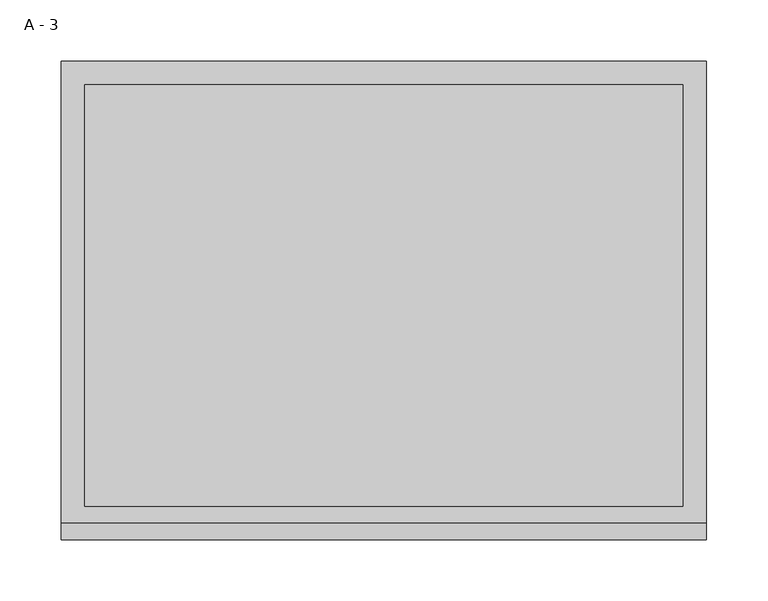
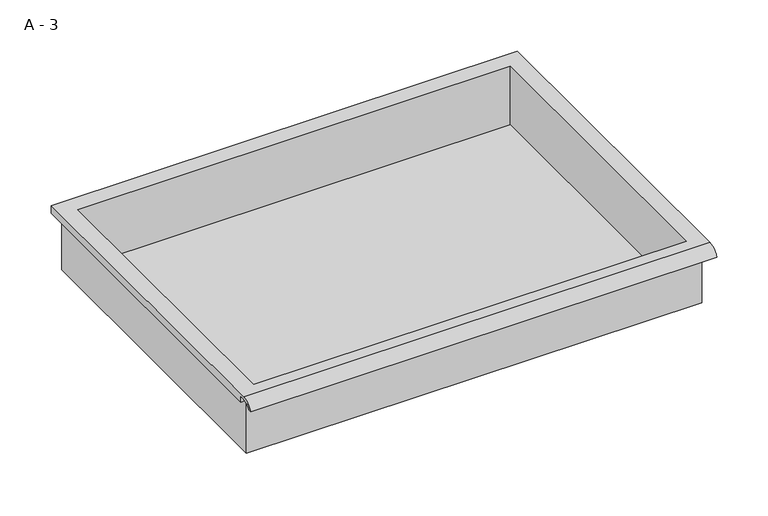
"""IFC4 building model written with IfcOpenShell, lengths in millimetres: furniture geometry, HermanMiller_CoStruc_CO207_Drawer : A - 3."""

import ifcopenshell
import ifcopenshell.guid

model = None  # the IFC model being written
_history = None  # IfcOwnerHistory: only IFC2X3 demands one
_inside = {}  # id of a spatial element -> (the spatial element, [elements in it])
_under = {}  # id of a project, library or spatial element -> (it, [spatial elements below it])
_declared = {}  # id of a project -> (the project, [libraries it declares])
_typed = {}  # id of a type object -> (the type object, [elements of that type])
_made_of = {}  # id of a material, layer set ... -> (it, [elements and type objects made of it])


def new_model(schema):
    """Start an empty IFC model of exactly this schema.

    Asked for "IFC4X3", IfcOpenShell would pick the latest addendum, in which some entities
    have other attributes; the version numbers below select the first issue.
    IFC2X3 requires an IfcOwnerHistory on every rooted entity: one is made here for all.
    """
    global model, _history
    if schema == "IFC4X3":
        model = ifcopenshell.file(schema_version=(4, 3, 0, 0))
    else:
        model = ifcopenshell.file(schema=schema)
    _inside.clear()
    _under.clear()
    _declared.clear()
    _typed.clear()
    _made_of.clear()
    _history = None
    if model.schema == "IFC2X3":
        org = make("IfcOrganization", Name="unknown")
        user = make(
            "IfcPersonAndOrganization",
            ThePerson=make("IfcPerson", FamilyName="unknown"),
            TheOrganization=org,
        )
        app = make(
            "IfcApplication",
            ApplicationDeveloper=org,
            Version="unknown",
            ApplicationFullName="unknown",
            ApplicationIdentifier="unknown",
        )
        _history = make(
            "IfcOwnerHistory",
            OwningUser=user,
            OwningApplication=app,
            ChangeAction="ADDED",
            CreationDate=0,
        )
    return model


def make(cls, **values):
    """One entity of the class cls with the attributes given. An attribute that is None is left unset."""
    return model.create_entity(
        cls, **{name: value for name, value in values.items() if value is not None}
    )


def rooted(cls, **values):
    """An entity with a GlobalId (a new one), such as an element, a storey or a relation."""
    return make(cls, GlobalId=ifcopenshell.guid.new(), OwnerHistory=_history, **values)


def si_unit(unit_type, name, prefix=None):
    """IfcSIUnit, for example si_unit("LENGTHUNIT", "METRE", prefix="MILLI")."""
    return make("IfcSIUnit", UnitType=unit_type, Prefix=prefix, Name=name)


def assignment(units):
    """IfcUnitAssignment: the units of a project."""
    return None if units is None else make("IfcUnitAssignment", Units=units)


def point(xyz):
    """IfcCartesianPoint."""
    return None if xyz is None else make("IfcCartesianPoint", Coordinates=xyz)


def direction(xyz):
    """IfcDirection."""
    return None if xyz is None else make("IfcDirection", DirectionRatios=xyz)


def frame(location, z_axis=None, x_axis=None):
    """IfcAxis2Placement3D, a coordinate frame: its origin and axes. An axis left out is left unset."""
    return make(
        "IfcAxis2Placement3D",
        Location=point(location),
        Axis=direction(z_axis),
        RefDirection=direction(x_axis),
    )


def origin():
    """The frame at (0, 0, 0) with its axes left unset."""
    return frame((0.0, 0.0, 0.0))


def place(relative_to, where):
    """IfcLocalPlacement: puts the frame where relative to a parent placement (None: the world)."""
    return make(
        "IfcLocalPlacement", PlacementRelTo=relative_to, RelativePlacement=where
    )


def context(
    kind, dimensions, precision=None, world=None, true_north=None, identifier=None
):
    """IfcGeometricRepresentationContext, for example the 3D "Model" context."""
    return make(
        "IfcGeometricRepresentationContext",
        ContextIdentifier=identifier,
        ContextType=kind,
        CoordinateSpaceDimension=dimensions,
        Precision=precision,
        WorldCoordinateSystem=world,
        TrueNorth=true_north,
    )


def project(units=None, contexts=None):
    """IfcProject with its units and contexts."""
    return rooted(
        "IfcProject",
        Name="project",
        RepresentationContexts=contexts,
        UnitsInContext=assignment(units),
    )


def spatial(cls, under=None, at=None, **own):
    """A site, building, storey or space (cls), placed at a placement, below another one or the project."""
    s = rooted(cls, ObjectPlacement=at, **own)
    if under is not None:
        _under.setdefault(under.id(), (under, []))[1].append(s)
    return s


def polyline(points):
    """IfcPolyline through the points."""
    return make("IfcPolyline", Points=[point(p) for p in points])


def circle_curve(where, radius):
    """IfcCircle in the frame where."""
    return make("IfcCircle", Position=where, Radius=radius)


def shape(context_of_items, identifier, shape_type, items):
    """IfcShapeRepresentation: the items that make up one representation, for example the "Body"."""
    return make(
        "IfcShapeRepresentation",
        ContextOfItems=context_of_items,
        RepresentationIdentifier=identifier,
        RepresentationType=shape_type,
        Items=items,
    )


def source(mapping_origin, context_of_items, identifier, shape_type, items):
    """IfcRepresentationMap: a shape defined once, which mapped items show again and again."""
    return make(
        "IfcRepresentationMap",
        MappingOrigin=mapping_origin,
        MappedRepresentation=shape(context_of_items, identifier, shape_type, items),
    )


def transform(
    local_origin,
    x_axis=None,
    y_axis=None,
    z_axis=None,
    scale=None,
    scale2=None,
    scale3=None,
    uniform=True,
):
    """IfcCartesianTransformationOperator3D, or its non-uniform kind. x_axis, y_axis, z_axis: its Axis1, 2, 3."""
    if uniform:
        return make(
            "IfcCartesianTransformationOperator3D",
            Axis1=direction(x_axis),
            Axis2=direction(y_axis),
            LocalOrigin=point(local_origin),
            Scale=scale,
            Axis3=direction(z_axis),
        )
    return make(
        "IfcCartesianTransformationOperator3DnonUniform",
        Axis1=direction(x_axis),
        Axis2=direction(y_axis),
        LocalOrigin=point(local_origin),
        Scale=scale,
        Axis3=direction(z_axis),
        Scale2=scale2,
        Scale3=scale3,
    )


def mapped(mapping_source, mapping_target):
    """IfcMappedItem: shows the shape of a source again, moved by a transform."""
    return make(
        "IfcMappedItem", MappingSource=mapping_source, MappingTarget=mapping_target
    )


def made_of(thing, what):
    """Note that an element or type object is made of a material, layer set ...; save() writes the relation."""
    if what is not None:
        _made_of.setdefault(what.id(), (what, []))[1].append(thing)
    return thing


def element(
    cls,
    number,
    at=None,
    inside=None,
    cuts=None,
    type_object=None,
    material=None,
    context=None,
    identifier="Body",
    shape_type=None,
    held_by="IfcProductDefinitionShape",
    body=None,
    shapes=None,
    **own,
):
    """One element of the class cls, such as IfcWall. Its Tag is "e" and its number.

    at: its placement. inside: the storey or other place that contains it. cuts: it is an
    opening in that element (IfcRelVoidsElement). A single representation is given by context,
    identifier, shape_type and body (its items); several are given by shapes. held_by: the class
    of the entity that holds the representations. save() writes the other relations.
    """
    e = rooted(cls, Tag="e%d" % number, ObjectPlacement=at, **own)
    if body is not None:
        shapes = [shape(context, identifier, shape_type, body)]
    if shapes is not None:
        e.Representation = make(held_by, Representations=shapes)
    if inside is not None:
        _inside.setdefault(inside.id(), (inside, []))[1].append(e)
    if cuts is not None:
        rooted(
            "IfcRelVoidsElement", RelatingBuildingElement=cuts, RelatedOpeningElement=e
        )
    if type_object is not None:
        _typed.setdefault(type_object.id(), (type_object, []))[1].append(e)
    return made_of(e, material)


def aggregate(whole, parts):
    """IfcRelAggregates: a whole, such as a stair, and the parts it consists of."""
    return rooted("IfcRelAggregates", RelatingObject=whole, RelatedObjects=parts)


def save(model, path):
    """Write the relations noted so far, then the file.

    IfcRelAggregates (storeys below a building ...), IfcRelContainedInSpatialStructure (elements
    in a storey), IfcRelDefinesByType, IfcRelAssociatesMaterial and IfcRelDeclares: one each for
    every whole, place, type object, material and project.
    """
    for whole, parts in _under.values():
        aggregate(whole, parts)
    for where, things in _inside.values():
        rooted(
            "IfcRelContainedInSpatialStructure",
            RelatedElements=things,
            RelatingStructure=where,
        )
    for kind, things in _typed.values():
        rooted("IfcRelDefinesByType", RelatedObjects=things, RelatingType=kind)
    for what, things in _made_of.values():
        rooted("IfcRelAssociatesMaterial", RelatedObjects=things, RelatingMaterial=what)
    for by, libraries in _declared.values():
        rooted("IfcRelDeclares", RelatingContext=by, RelatedDefinitions=libraries)
    model.write(path)


def plane_surface(at):
    """IfcPlane: the flat surface through the origin of the frame at, square to its z axis."""
    return make("IfcPlane", Position=at)


def cylinder_surface(at, radius):
    """IfcCylindricalSurface: all points at the distance radius from the z axis of the frame at."""
    return make("IfcCylindricalSurface", Position=at, Radius=radius)


def revolved_surface(curve, axis_point, axis_direction):
    """IfcSurfaceOfRevolution: the curve turned about the line through axis_point along axis_direction."""
    return make(
        "IfcSurfaceOfRevolution",
        SweptCurve=make("IfcArbitraryOpenProfileDef", ProfileType="CURVE", Curve=curve),
        AxisPosition=make("IfcAxis1Placement", Location=point(axis_point), Axis=direction(axis_direction)),
    )


def advanced_brep(points, edges, surfaces, faces):
    """IfcAdvancedBrep: a solid bounded by faces that lie on surfaces and meet in shared edges.

    An edge is (start, end): straight between two places in points (the first is 0);
    or (start, end, curve); or (start, end, curve, False) where it runs against its curve.
    A face is (place in surfaces, loops), or (place, loops, False) where it looks against
    its surface's normal. A loop lists edges by number (the first is 1), with a minus sign
    where the edge is run from its end to its start. The first loop is the outer one.
    """
    corners = [point(p) for p in points]
    vertices = [make("IfcVertexPoint", VertexGeometry=c) for c in corners]
    made = []
    for start, end, *more in edges:
        made.append(
            make(
                "IfcEdgeCurve",
                EdgeStart=vertices[start],
                EdgeEnd=vertices[end],
                EdgeGeometry=more[0] if more else make("IfcPolyline", Points=[corners[start], corners[end]]),
                SameSense=more[1] if len(more) > 1 else True,
            )
        )
    hull = []
    for where, loops, *sense in faces:
        bounds = []
        for j, loop in enumerate(loops):
            ring = [make("IfcOrientedEdge", EdgeElement=made[abs(k) - 1], Orientation=k > 0) for k in loop]
            bounds.append(
                make(
                    "IfcFaceOuterBound" if j == 0 else "IfcFaceBound",
                    Bound=make("IfcEdgeLoop", EdgeList=ring),
                    Orientation=True,
                )
            )
        hull.append(make("IfcAdvancedFace", Bounds=bounds, FaceSurface=surfaces[where], SameSense=sense[0] if sense else True))
    return make("IfcAdvancedBrep", Outer=make("IfcClosedShell", CfsFaces=hull))


def a_3_189406c7(model_context):
    return source(origin(), model_context, "Body", "AdvancedBrep", [
        advanced_brep(
        [(-257.1076517, -176.2125, 738.2002), (257.2423483, -176.2125, 738.2002), (257.2423483, -176.2125, 801.7002), (263.5923483, -176.2125, 801.7002), (263.5923483, -176.2125, 808.0073341), (-263.4576517, -176.2125, 808.0073341), (-263.4576517, -176.2125, 801.7002), (-257.1076517, -176.2125, 801.7002), (257.2423483, 185.7375, 738.2002), (-257.1076517, 185.7375, 738.2002), (-257.1076517, 185.7375, 801.7002), (257.2423483, 185.7375, 801.7002), (263.5923483, -181.6070544, 811.2252), (263.5923483, 195.2625, 811.2252), (-263.4576517, 195.2625, 811.2252), (-263.4576517, -181.6070544, 811.2252), (244.5423483, -168.275, 811.2252), (-244.4076517, -168.275, 811.2252), (-244.4076517, 176.2125, 811.2252), (244.5423483, 176.2125, 811.2252), (263.5923483, -195.2625, 801.7002), (263.5923483, -191.8280601, 801.7002), (263.5923483, -180.4714815, 808.0073341), (263.5923483, 195.2625, 801.7002), (-263.4576517, 195.2625, 801.7002), (-263.4576517, -180.4714815, 808.0073341), (-263.4576517, -191.8280601, 801.7002), (-263.4576517, -195.2625, 801.7002), (-244.4076517, -168.275, 741.2263719), (244.5423483, -168.275, 741.2263719), (244.5423483, 176.2125, 741.2263719), (-244.4076517, 176.2125, 741.2263719)],
        [
            (0, 1),
            (1, 2),
            (2, 3),
            (3, 4),
            (4, 5),
            (5, 6),
            (6, 7),
            (7, 0),
            (8, 9),
            (9, 10),
            (10, 11),
            (11, 8),
            (0, 9),
            (8, 1),
            (11, 2),
            (12, 13),
            (13, 14),
            (14, 15),
            (15, 12),
            (16, 17),
            (17, 18),
            (18, 19),
            (19, 16),
            (7, 10),
            (12, 20, circle_curve(frame((263.5923483, -181.6070544, 796.6741859), z_axis=(1.0, 0.0, 0.0), x_axis=(0.0, 1.0, 0.0)), 14.5510141)),
            (20, 21),
            (21, 22, circle_curve(frame((263.5923483, -181.6070544, 796.6741859), z_axis=(-1.0, 0.0, 0.0), x_axis=(0.0, 1.0, 0.0)), 11.3898979)),
            (22, 4),
            (3, 23),
            (23, 13),
            (14, 24),
            (24, 6),
            (5, 25),
            (25, 26, circle_curve(frame((-263.4576517, -181.6070544, 796.6741859), z_axis=(1.0, 0.0, 0.0), x_axis=(0.0, 1.0, 0.0)), 11.3898979)),
            (26, 27),
            (27, 15, circle_curve(frame((-263.4576517, -181.6070544, 796.6741859), z_axis=(-1.0, 0.0, 0.0), x_axis=(0.0, 1.0, 0.0)), 14.5510141)),
            (27, 20),
            (26, 21),
            (25, 22),
            (24, 23),
            (28, 29),
            (29, 30),
            (30, 31),
            (31, 28),
            (28, 17),
            (16, 29),
            (19, 30),
            (18, 31),
        ],
        [
            plane_surface(frame((257.2423483, -176.2125, 738.2002), z_axis=(0.0, -1.0, 0.0), x_axis=(1.0, 0.0, 0.0))),
            plane_surface(frame((257.2423483, 185.7375, 738.2002), z_axis=(0.0, 1.0, 0.0), x_axis=(-1.0, 0.0, 0.0))),
            plane_surface(frame((-257.1076517, -176.2125, 738.2002), z_axis=(0.0, 0.0, -1.0), x_axis=(0.0, 1.0, 0.0))),
            plane_surface(frame((257.2423483, -176.2125, 738.2002), z_axis=(1.0, 0.0, 0.0), x_axis=(0.0, 1.0, 0.0))),
            plane_surface(frame((257.2423483, -176.2125, 811.2252), z_axis=(0.0, 0.0, 1.0), x_axis=(0.0, 1.0, 0.0))),
            plane_surface(frame((-257.1076517, -176.2125, 811.2252), z_axis=(-1.0, 0.0, 0.0), x_axis=(0.0, 1.0, 0.0))),
            plane_surface(frame((263.5923483, 195.2625, 811.2252), z_axis=(1.0, 0.0, 0.0), x_axis=(0.0, -1.0, 0.0))),
            plane_surface(frame((-263.4576517, 195.2625, 811.2252), z_axis=(-1.0, 0.0, 0.0), x_axis=(0.0, 1.0, 0.0))),
            cylinder_surface(frame((-263.4576517, -181.6070544, 796.6741859), z_axis=(1.0, 0.0, 0.0), x_axis=(0.0, 1.0, 0.0)), 14.5510141),
            plane_surface(frame((263.5923483, -195.2625, 801.7002), z_axis=(0.0, -7.172997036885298e-12, -1.0), x_axis=(-1.0, 0.0, 0.0))),
            revolved_surface(polyline([(-263.4576517, -170.21715650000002, 796.6741859), (263.59234829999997, -170.21715650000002, 796.6741859)]), (-263.4576517, -181.6070544, 796.6741859), (-1.0, 0.0, 0.0)),
            plane_surface(frame((263.5923483, -180.4714815, 808.0073341), z_axis=(0.0, -1.779784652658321e-11, -1.0), x_axis=(-1.0, 0.0, 0.0))),
            plane_surface(frame((263.5923483, -176.2125, 801.7002), z_axis=(0.0, 0.0, -1.0), x_axis=(-1.0, 0.0, 0.0))),
            plane_surface(frame((263.5923483, 195.2625, 801.7002), z_axis=(0.0, 1.0, 0.0), x_axis=(-1.0, 0.0, 0.0))),
            plane_surface(frame((244.5423483, -168.275, 741.2263719), z_axis=(0.0, 0.0, 1.0), x_axis=(-1.0, 0.0, 0.0))),
            plane_surface(frame((-244.4076517, -168.275, 811.2252), z_axis=(0.0, 1.0, 0.0), x_axis=(0.0, 0.0, -1.0))),
            plane_surface(frame((244.5423483, -168.275, 811.2252), z_axis=(-1.0, 0.0, 0.0), x_axis=(0.0, 0.0, -1.0))),
            plane_surface(frame((244.5423483, 176.2125, 811.2252), z_axis=(0.0, -1.0, 0.0), x_axis=(0.0, 0.0, -1.0))),
            plane_surface(frame((-244.4076517, 176.2125, 811.2252), z_axis=(1.0, 0.0, 0.0), x_axis=(0.0, 0.0, -1.0))),
        ],
        [
            (0, [[1, 2, 3, 4, 5, 6, 7, 8]]),
            (1, [[9, 10, 11, 12]]),
            (2, [[-1, 13, -9, 14]]),
            (3, [[-14, -12, 15, -2]]),
            (4, [[16, 17, 18, 19], [20, 21, 22, 23]]),
            (5, [[-13, -8, 24, -10]]),
            (6, [[-16, 25, 26, 27, 28, -4, 29, 30]]),
            (7, [[31, 32, -6, 33, 34, 35, 36, -18]]),
            (8, [[-25, -19, -36, 37]]),
            (9, [[-26, -37, -35, 38]]),
            (10, [[-27, -38, -34, 39]]),
            (11, [[-28, -39, -33, -5]]),
            (12, [[-29, -3, -15, -11, -24, -7, -32, 40]]),
            (13, [[-30, -40, -31, -17]]),
            (14, [[41, 42, 43, 44]]),
            (15, [[-41, 45, -20, 46]]),
            (16, [[-42, -46, -23, 47]]),
            (17, [[-43, -47, -22, 48]]),
            (18, [[-44, -48, -21, -45]]),
        ],
    ),
    ])


if __name__ == "__main__":
    model = new_model("IFC4")
    model_context = context("Model", 3, world=origin())
    ifc_project = project(units=[si_unit("LENGTHUNIT", "METRE", prefix="MILLI")], contexts=[model_context])
    site = spatial("IfcSite", under=ifc_project)
    building = spatial("IfcBuilding", under=site)
    placement = place(None, origin())
    a_3_shape = a_3_189406c7(model_context)
    element("IfcFurniture", 1, ObjectType="HermanMiller_CoStruc_CO207_Drawer : A - 3", at=placement, inside=building, context=model_context, shape_type="MappedRepresentation", body=[
        mapped(a_3_shape, transform((0.0, 0.0, 0.0), x_axis=(1.0, 0.0, 0.0), y_axis=(0.0, 1.0, 0.0), z_axis=(0.0, 0.0, 1.0))),
    ])
    save(model, "model.ifc")
